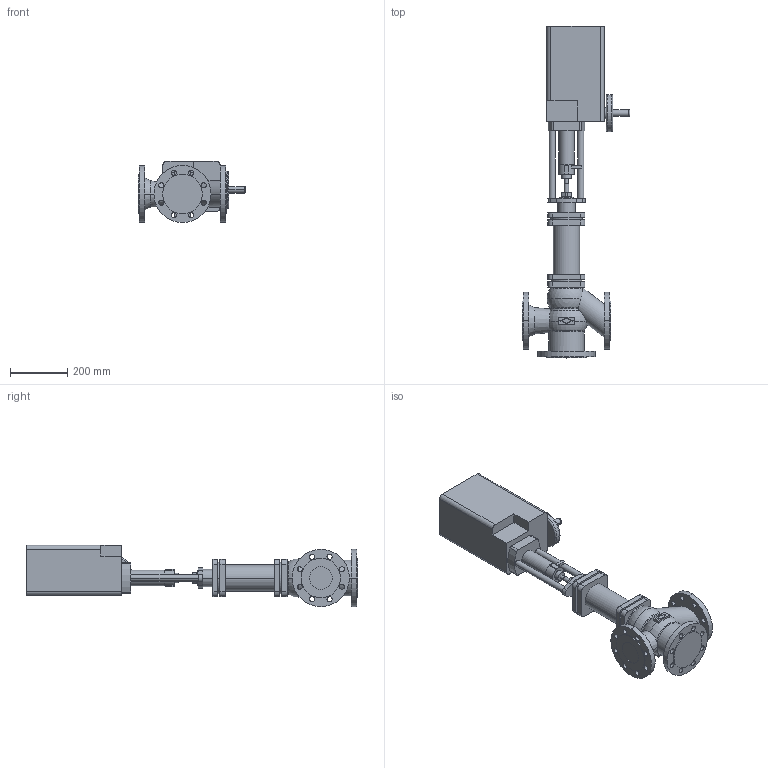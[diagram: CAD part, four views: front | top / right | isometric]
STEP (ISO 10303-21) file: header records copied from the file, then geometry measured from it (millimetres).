
FILE_DESCRIPTION(('OneSpaceDesigner STEP Export'),'2;1');
FILE_NAME('c000002457.stp','2006-09-21T11:52:42',(''),(''),'OneSpace Designer STEP processor for AP214 (Solid Model)','OneSpace Designer 13.20A 18-Aug-2005 (C) CoCreate Software GmbH','');
FILE_SCHEMA(('AUTOMOTIVE_DESIGN { 1 0 10303 214 1 1 1 1 }'));
Length unit declared in the file: millimetre
Products named in the file (2): 1; 2
Bounding box: 376.6 x 1161.2 x 214 mm (x, y, z)
Volume: 21290690.1 mm3; surface area: 956224.4 mm2
Topology: 2 solids, 2 shells, 272 faces, 688 edges, 451 vertices
Faces by surface type: cylinder 138, plane 110, torus 16, sphere 4, cone 4
Entity records: 7690 total; most frequent: CARTESIAN_POINT 1488, ORIENTED_EDGE 1368, DIRECTION 1161, EDGE_CURVE 684, VERTEX_POINT 451, AXIS2_PLACEMENT_3D 417, EDGE_LOOP 355, VECTOR 327
